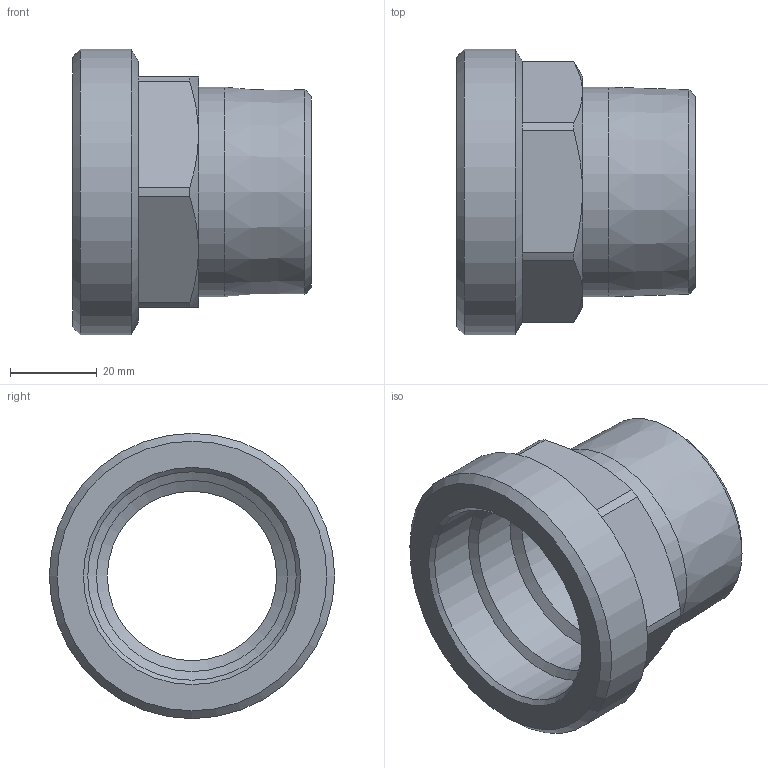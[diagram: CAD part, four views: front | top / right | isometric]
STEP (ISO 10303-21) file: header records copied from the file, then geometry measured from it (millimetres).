
FILE_DESCRIPTION((''),'2;1');
FILE_NAME('\\Lg50001\Groups\SANHA Legnica\Engineering\Public\Pajchrowski\projekty\8000 models\4376g\14376_112-214(1).stp','2009-08-28T10:34:56',('pajchrowski'),(''),'Autodesk Inventor 2009','Autodesk Inventor 2009','');
FILE_SCHEMA(('AUTOMOTIVE_DESIGN { 1 0 10303 214 1 1 1 1 }'));
Length unit declared in the file: millimetre
Products named in the file (1): 14376_114-2(1)
Bounding box: 55 x 65.71 x 65.71 mm (x, y, z)
Volume: 53154.6 mm3; surface area: 19995.5 mm2
Topology: 1 solids, 1 shells, 40 faces, 83 edges, 46 vertices
Faces by surface type: plane 15, cone 14, cylinder 11
Full cylindrical faces by diameter (mm): 39 x1, 44 x1, 48 x1, 48.26 x1, 65.71 x1
Entity records: 986 total; most frequent: CARTESIAN_POINT 179, DIRECTION 178, ORIENTED_EDGE 138, AXIS2_PLACEMENT_3D 80, EDGE_CURVE 69, EDGE_LOOP 56, VERTEX_POINT 45, FACE_OUTER_BOUND 40
